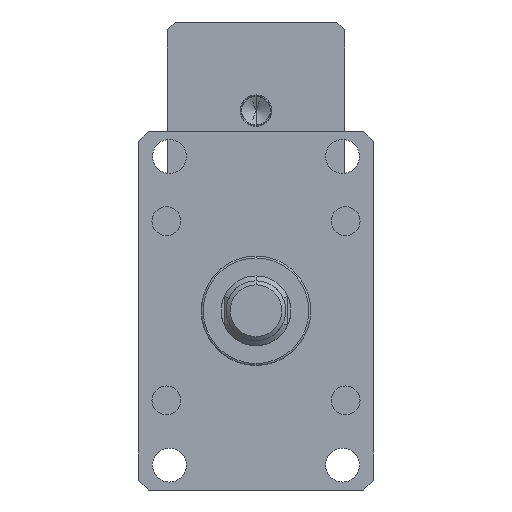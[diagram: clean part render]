
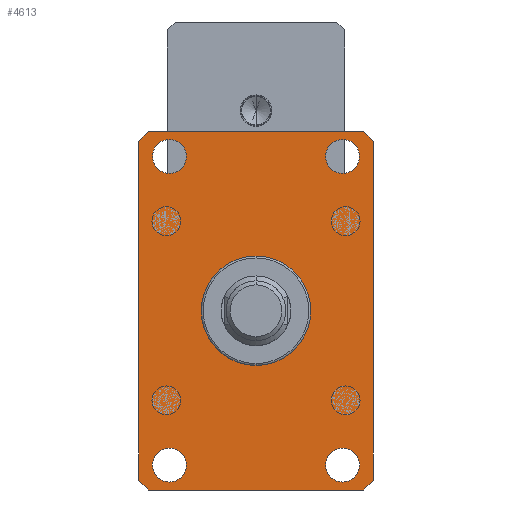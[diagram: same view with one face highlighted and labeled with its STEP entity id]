
A CAD part, front view. The second image highlights one B-rep face of the part: STEP entity #4613.
In plain terms, the highlighted planar face has unit normal (0, -1, 0).
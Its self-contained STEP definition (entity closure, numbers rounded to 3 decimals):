
#81 = DIRECTION ( 'NONE',  ( 0., 1., 0. ) ) ;
#86 = ORIENTED_EDGE ( 'NONE', *, *, #1665, .F. ) ;
#176 = CARTESIAN_POINT ( 'NONE',  ( -43.5, -55., -69. ) ) ;
#243 = CIRCLE ( 'NONE', #12114, 8.5 ) ;
#268 = DIRECTION ( 'NONE',  ( 0., 0., 1. ) ) ;
#271 = VERTEX_POINT ( 'NONE', #4316 ) ;
#333 = EDGE_CURVE ( 'NONE', #12770, #5644, #4437, .T. ) ;
#367 = LINE ( 'NONE', #1512, #5613 ) ;
#390 = DIRECTION ( 'NONE',  ( 0., 0., -1. ) ) ;
#433 = DIRECTION ( 'NONE',  ( 0., 0., -1. ) ) ;
#476 = EDGE_LOOP ( 'NONE', ( #8585, #7461 ) ) ;
#546 = EDGE_CURVE ( 'NONE', #4520, #12739, #2887, .T. ) ;
#813 = CARTESIAN_POINT ( 'NONE',  ( -59., -55., -85. ) ) ;
#869 = CARTESIAN_POINT ( 'NONE',  ( 43.5, -55., 86. ) ) ;
#908 = ORIENTED_EDGE ( 'NONE', *, *, #11481, .T. ) ;
#913 = DIRECTION ( 'NONE',  ( 0., 0., 1. ) ) ;
#1229 = LINE ( 'NONE', #7539, #8170 ) ;
#1241 = CIRCLE ( 'NONE', #6816, 8.5 ) ;
#1378 = CARTESIAN_POINT ( 'NONE',  ( -54., -55., -90. ) ) ;
#1393 = ORIENTED_EDGE ( 'NONE', *, *, #11519, .T. ) ;
#1512 = CARTESIAN_POINT ( 'NONE',  ( 59., -55., 85. ) ) ;
#1525 = EDGE_CURVE ( 'NONE', #3178, #4637, #243, .T. ) ;
#1545 = VERTEX_POINT ( 'NONE', #10686 ) ;
#1665 = EDGE_CURVE ( 'NONE', #2558, #2063, #5946, .T. ) ;
#1705 = ORIENTED_EDGE ( 'NONE', *, *, #9220, .F. ) ;
#1776 = ORIENTED_EDGE ( 'NONE', *, *, #9996, .T. ) ;
#1789 = CARTESIAN_POINT ( 'NONE',  ( 43.5, -55., -77.5 ) ) ;
#1815 = VECTOR ( 'NONE', #12594, 1000. ) ;
#1855 = CARTESIAN_POINT ( 'NONE',  ( 59., -55., -90. ) ) ;
#1934 = CARTESIAN_POINT ( 'NONE',  ( -59., -55., -85. ) ) ;
#1950 = CARTESIAN_POINT ( 'NONE',  ( 43.5, -55., 77.5 ) ) ;
#2063 = VERTEX_POINT ( 'NONE', #869 ) ;
#2165 = FACE_BOUND ( 'NONE', #4593, .T. ) ;
#2453 = CIRCLE ( 'NONE', #4337, 8.5 ) ;
#2558 = VERTEX_POINT ( 'NONE', #12488 ) ;
#2677 = AXIS2_PLACEMENT_3D ( 'NONE', #1855, #6820, #913 ) ;
#2779 = DIRECTION ( 'NONE',  ( 0., 0., 1. ) ) ;
#2784 = FACE_OUTER_BOUND ( 'NONE', #11324, .T. ) ;
#2843 = VERTEX_POINT ( 'NONE', #10072 ) ;
#2887 = CIRCLE ( 'NONE', #9123, 8.5 ) ;
#2946 = DIRECTION ( 'NONE',  ( 0., 0., -1. ) ) ;
#3074 = CARTESIAN_POINT ( 'NONE',  ( -43.5, -55., 77.5 ) ) ;
#3178 = VERTEX_POINT ( 'NONE', #10706 ) ;
#3996 = CARTESIAN_POINT ( 'NONE',  ( 43.5, -55., 77.5 ) ) ;
#4054 = DIRECTION ( 'NONE',  ( 0., 0., -1. ) ) ;
#4159 = LINE ( 'NONE', #8321, #6781 ) ;
#4183 = VERTEX_POINT ( 'NONE', #1934 ) ;
#4316 = CARTESIAN_POINT ( 'NONE',  ( 54., -55., 90. ) ) ;
#4337 = AXIS2_PLACEMENT_3D ( 'NONE', #11118, #5210, #12109 ) ;
#4385 = VERTEX_POINT ( 'NONE', #12384 ) ;
#4437 = LINE ( 'NONE', #9617, #1815 ) ;
#4520 = VERTEX_POINT ( 'NONE', #6447 ) ;
#4593 = EDGE_LOOP ( 'NONE', ( #1705, #86 ) ) ;
#4613 = ADVANCED_FACE ( 'NONE', ( #4790, #12659, #7723, #2784, #2165 ), #12717, .F. ) ;
#4637 = VERTEX_POINT ( 'NONE', #11746 ) ;
#4735 = EDGE_CURVE ( 'NONE', #12739, #4520, #9106, .T. ) ;
#4777 = EDGE_CURVE ( 'NONE', #10663, #271, #5879, .T. ) ;
#4790 = FACE_BOUND ( 'NONE', #11683, .T. ) ;
#4976 = DIRECTION ( 'NONE',  ( 0., 0., -1. ) ) ;
#5129 = CARTESIAN_POINT ( 'NONE',  ( 54., -55., -90. ) ) ;
#5147 = EDGE_CURVE ( 'NONE', #4183, #1545, #8029, .T. ) ;
#5210 = DIRECTION ( 'NONE',  ( 0., 1., 0. ) ) ;
#5281 = EDGE_CURVE ( 'NONE', #9516, #7423, #1241, .T. ) ;
#5340 = VECTOR ( 'NONE', #5345, 1000. ) ;
#5345 = DIRECTION ( 'NONE',  ( 1., 0., 0. ) ) ;
#5397 = ORIENTED_EDGE ( 'NONE', *, *, #4777, .T. ) ;
#5613 = VECTOR ( 'NONE', #8406, 1000. ) ;
#5644 = VERTEX_POINT ( 'NONE', #5680 ) ;
#5662 = EDGE_CURVE ( 'NONE', #7423, #9516, #2453, .T. ) ;
#5680 = CARTESIAN_POINT ( 'NONE',  ( 59., -55., -85. ) ) ;
#5736 = DIRECTION ( 'NONE',  ( 0.707, 0., -0.707 ) ) ;
#5766 = EDGE_CURVE ( 'NONE', #4385, #4183, #4159, .T. ) ;
#5879 = LINE ( 'NONE', #8958, #10825 ) ;
#5883 = EDGE_CURVE ( 'NONE', #271, #2843, #1229, .T. ) ;
#5946 = CIRCLE ( 'NONE', #8561, 8.5 ) ;
#5988 = CARTESIAN_POINT ( 'NONE',  ( -43.5, -55., -77.5 ) ) ;
#6178 = DIRECTION ( 'NONE',  ( 0., 1., 0. ) ) ;
#6300 = DIRECTION ( 'NONE',  ( 0., -1., 0. ) ) ;
#6447 = CARTESIAN_POINT ( 'NONE',  ( -43.5, -55., 69. ) ) ;
#6652 = AXIS2_PLACEMENT_3D ( 'NONE', #3074, #9968, #4054 ) ;
#6781 = VECTOR ( 'NONE', #433, 1000. ) ;
#6816 = AXIS2_PLACEMENT_3D ( 'NONE', #5988, #81, #6974 ) ;
#6820 = DIRECTION ( 'NONE',  ( 0., 1., 0. ) ) ;
#6957 = EDGE_CURVE ( 'NONE', #4637, #3178, #10479, .T. ) ;
#6974 = DIRECTION ( 'NONE',  ( 0., 0., 1. ) ) ;
#6993 = ORIENTED_EDGE ( 'NONE', *, *, #5147, .T. ) ;
#7035 = DIRECTION ( 'NONE',  ( -0.707, 0., 0.707 ) ) ;
#7423 = VERTEX_POINT ( 'NONE', #176 ) ;
#7453 = ORIENTED_EDGE ( 'NONE', *, *, #4735, .F. ) ;
#7461 = ORIENTED_EDGE ( 'NONE', *, *, #6957, .T. ) ;
#7539 = CARTESIAN_POINT ( 'NONE',  ( -54., -55., 90. ) ) ;
#7716 = VECTOR ( 'NONE', #5736, 1000. ) ;
#7723 = FACE_BOUND ( 'NONE', #11585, .T. ) ;
#7743 = DIRECTION ( 'NONE',  ( -0.707, 0., -0.707 ) ) ;
#7910 = AXIS2_PLACEMENT_3D ( 'NONE', #12079, #6178, #268 ) ;
#7956 = LINE ( 'NONE', #1378, #5340 ) ;
#8029 = LINE ( 'NONE', #813, #7716 ) ;
#8054 = CARTESIAN_POINT ( 'NONE',  ( -43.5, -55., 86. ) ) ;
#8170 = VECTOR ( 'NONE', #8530, 1000. ) ;
#8293 = ORIENTED_EDGE ( 'NONE', *, *, #5281, .T. ) ;
#8321 = CARTESIAN_POINT ( 'NONE',  ( -59., -55., 85. ) ) ;
#8406 = DIRECTION ( 'NONE',  ( 0., 0., 1. ) ) ;
#8530 = DIRECTION ( 'NONE',  ( -1., 0., 0. ) ) ;
#8561 = AXIS2_PLACEMENT_3D ( 'NONE', #3996, #10896, #4976 ) ;
#8585 = ORIENTED_EDGE ( 'NONE', *, *, #1525, .T. ) ;
#8682 = DIRECTION ( 'NONE',  ( 0., 1., 0. ) ) ;
#8836 = DIRECTION ( 'NONE',  ( 0., -1., 0. ) ) ;
#8958 = CARTESIAN_POINT ( 'NONE',  ( 54., -55., 90. ) ) ;
#9106 = CIRCLE ( 'NONE', #6652, 8.5 ) ;
#9123 = AXIS2_PLACEMENT_3D ( 'NONE', #12207, #6300, #390 ) ;
#9220 = EDGE_CURVE ( 'NONE', #2063, #2558, #10143, .T. ) ;
#9516 = VERTEX_POINT ( 'NONE', #12520 ) ;
#9617 = CARTESIAN_POINT ( 'NONE',  ( 54., -55., -90. ) ) ;
#9660 = ORIENTED_EDGE ( 'NONE', *, *, #5883, .T. ) ;
#9887 = ORIENTED_EDGE ( 'NONE', *, *, #5766, .T. ) ;
#9968 = DIRECTION ( 'NONE',  ( 0., -1., 0. ) ) ;
#9996 = EDGE_CURVE ( 'NONE', #1545, #12770, #7956, .T. ) ;
#10072 = CARTESIAN_POINT ( 'NONE',  ( -54., -55., 90. ) ) ;
#10143 = CIRCLE ( 'NONE', #10994, 8.5 ) ;
#10244 = VECTOR ( 'NONE', #7743, 1000. ) ;
#10479 = CIRCLE ( 'NONE', #7910, 8.5 ) ;
#10522 = CARTESIAN_POINT ( 'NONE',  ( -59., -55., 85. ) ) ;
#10564 = LINE ( 'NONE', #10522, #10244 ) ;
#10663 = VERTEX_POINT ( 'NONE', #12563 ) ;
#10686 = CARTESIAN_POINT ( 'NONE',  ( -54., -55., -90. ) ) ;
#10706 = CARTESIAN_POINT ( 'NONE',  ( 43.5, -55., -69. ) ) ;
#10825 = VECTOR ( 'NONE', #7035, 1000. ) ;
#10896 = DIRECTION ( 'NONE',  ( 0., -1., 0. ) ) ;
#10994 = AXIS2_PLACEMENT_3D ( 'NONE', #1950, #8836, #2946 ) ;
#11118 = CARTESIAN_POINT ( 'NONE',  ( -43.5, -55., -77.5 ) ) ;
#11324 = EDGE_LOOP ( 'NONE', ( #1776, #12126, #908, #5397, #9660, #1393, #9887, #6993 ) ) ;
#11481 = EDGE_CURVE ( 'NONE', #5644, #10663, #367, .T. ) ;
#11519 = EDGE_CURVE ( 'NONE', #2843, #4385, #10564, .T. ) ;
#11585 = EDGE_LOOP ( 'NONE', ( #12539, #8293 ) ) ;
#11683 = EDGE_LOOP ( 'NONE', ( #7453, #12352 ) ) ;
#11746 = CARTESIAN_POINT ( 'NONE',  ( 43.5, -55., -86. ) ) ;
#12079 = CARTESIAN_POINT ( 'NONE',  ( 43.5, -55., -77.5 ) ) ;
#12109 = DIRECTION ( 'NONE',  ( 0., 0., 1. ) ) ;
#12114 = AXIS2_PLACEMENT_3D ( 'NONE', #1789, #8682, #2779 ) ;
#12126 = ORIENTED_EDGE ( 'NONE', *, *, #333, .T. ) ;
#12207 = CARTESIAN_POINT ( 'NONE',  ( -43.5, -55., 77.5 ) ) ;
#12352 = ORIENTED_EDGE ( 'NONE', *, *, #546, .F. ) ;
#12384 = CARTESIAN_POINT ( 'NONE',  ( -59., -55., 85. ) ) ;
#12488 = CARTESIAN_POINT ( 'NONE',  ( 43.5, -55., 69. ) ) ;
#12520 = CARTESIAN_POINT ( 'NONE',  ( -43.5, -55., -86. ) ) ;
#12539 = ORIENTED_EDGE ( 'NONE', *, *, #5662, .T. ) ;
#12563 = CARTESIAN_POINT ( 'NONE',  ( 59., -55., 85. ) ) ;
#12594 = DIRECTION ( 'NONE',  ( 0.707, 0., 0.707 ) ) ;
#12659 = FACE_BOUND ( 'NONE', #476, .T. ) ;
#12717 = PLANE ( 'NONE',  #2677 ) ;
#12739 = VERTEX_POINT ( 'NONE', #8054 ) ;
#12770 = VERTEX_POINT ( 'NONE', #5129 ) ;
